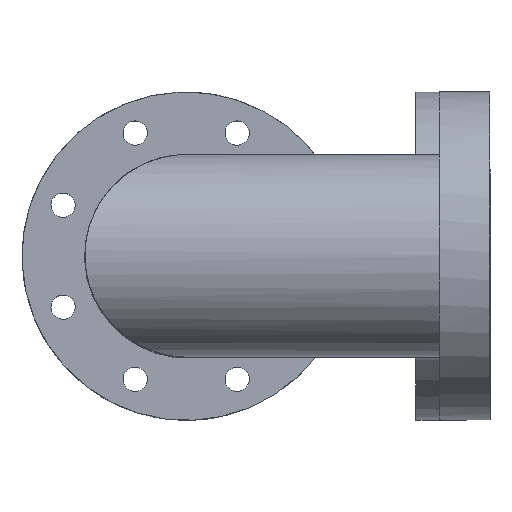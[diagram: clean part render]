
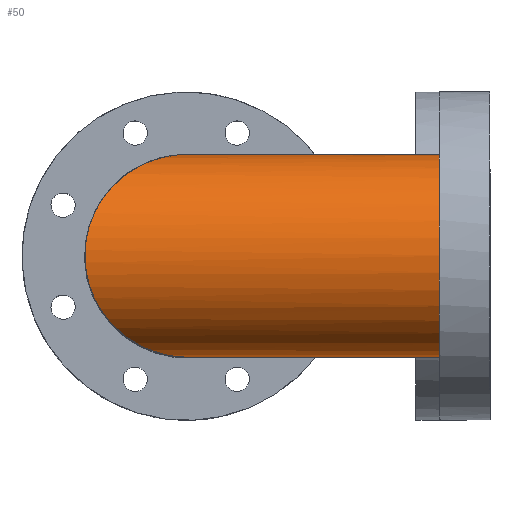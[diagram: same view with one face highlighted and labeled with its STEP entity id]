
A CAD part, top view. The second image highlights one B-rep face of the part: STEP entity #50.
In plain terms, the highlighted cylindrical face has radius 35 mm (diameter 70 mm), a full revolution.
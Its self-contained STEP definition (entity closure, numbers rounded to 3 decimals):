
#50 = ADVANCED_FACE( '', ( #88, #89 ), #90, .T. );
#88 = FACE_OUTER_BOUND( '', #124, .T. );
#89 = FACE_OUTER_BOUND( '', #125, .T. );
#90 = CYLINDRICAL_SURFACE( '', #126, 35. );
#124 = EDGE_LOOP( '', ( #178 ) );
#125 = EDGE_LOOP( '', ( #179 ) );
#126 = AXIS2_PLACEMENT_3D( '', #180, #181, #182 );
#178 = ORIENTED_EDGE( '', *, *, #270, .F. );
#179 = ORIENTED_EDGE( '', *, *, #266, .F. );
#180 = CARTESIAN_POINT( '', ( -96.9, 0., 150. ) );
#181 = DIRECTION( '', ( 0., 0., 1. ) );
#182 = DIRECTION( '', ( -1., 0., 0. ) );
#266 = EDGE_CURVE( '', #350, #350, #351, .T. );
#270 = EDGE_CURVE( '', #356, #356, #357, .F. );
#350 = VERTEX_POINT( '', #499 );
#351 = CIRCLE( '', #500, 35. );
#356 = VERTEX_POINT( '', #505 );
#357 = ELLIPSE( '', #506, 49.497, 35. );
#499 = CARTESIAN_POINT( '', ( -61.9, 0., 0. ) );
#500 = AXIS2_PLACEMENT_3D( '', #548, #549, #550 );
#505 = CARTESIAN_POINT( '', ( -61.9, 0., 61.9 ) );
#506 = AXIS2_PLACEMENT_3D( '', #554, #555, #556 );
#548 = CARTESIAN_POINT( '', ( -96.9, 0., 0. ) );
#549 = DIRECTION( '', ( 0., 0., -1. ) );
#550 = DIRECTION( '', ( 1., 0., 0. ) );
#554 = CARTESIAN_POINT( '', ( -96.9, 0., 96.9 ) );
#555 = DIRECTION( '', ( -0.707, 0., -0.707 ) );
#556 = DIRECTION( '', ( 0.707, 0., -0.707 ) );
